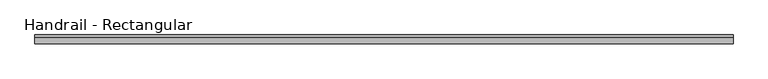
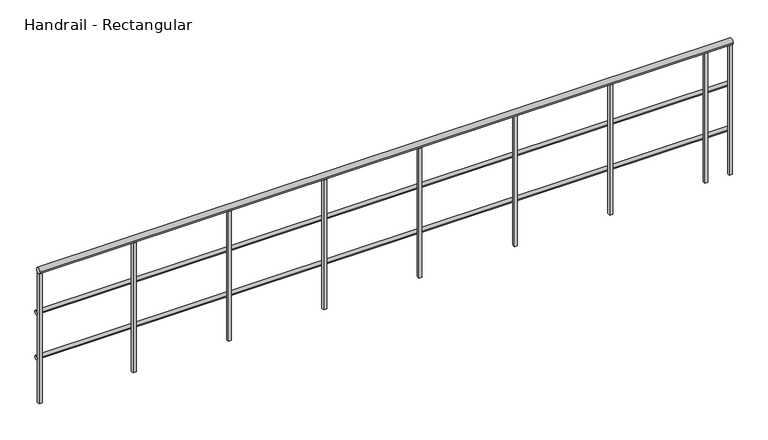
"""IFC4 building model written with IfcOpenShell, lengths in millimetres: railing geometry, Handrail - Rectangular."""

from ifc_helpers import new_model, si_unit, point, frame, frame_2d, origin, place, context, project, spatial, polyline, circle_curve, trimmed, segment, composite_curve, outline, extrude, source, transform, mapped, element, save


def handrail_rectangular_8bc6fbf6(model_context):
    return source(origin(), model_context, "Body", "SweptSolid", [
        extrude(outline(composite_curve([segment(trimmed(circle_curve(frame_2d((11970.2316867, 9740.9)), 12.7), [point((11982.9316867, 9740.9))], [point((11957.5316867, 9740.9))], False, "CARTESIAN"), True, "CONTINUOUS"), segment(trimmed(circle_curve(frame_2d((11970.2316867, 9740.9)), 12.7), [point((11957.5316867, 9740.9))], [point((11982.9316867, 9740.9))], False, "CARTESIAN"), True, "CONTINUOUS")], self_intersect=False)), frame((-3862.3589563, 0.0, 0.0), z_axis=(1.0, 0.0, 0.0), x_axis=(0.0, 1.0, 0.0)), (0.0, 0.0, 1.0), 4432.3),
        extrude(outline(composite_curve([segment(trimmed(circle_curve(frame_2d((11970.2316867, 9436.1)), 12.7), [point((11982.9316867, 9436.1))], [point((11957.5316867, 9436.1))], False, "CARTESIAN"), True, "CONTINUOUS"), segment(trimmed(circle_curve(frame_2d((11970.2316867, 9436.1)), 12.7), [point((11957.5316867, 9436.1))], [point((11982.9316867, 9436.1))], False, "CARTESIAN"), True, "CONTINUOUS")], self_intersect=False)), frame((-3862.3589563, 0.0, 0.0), z_axis=(1.0, 0.0, 0.0), x_axis=(0.0, 1.0, 0.0)), (0.0, 0.0, 1.0), 4432.3),
        extrude(outline(composite_curve([segment(trimmed(circle_curve(frame_2d((11944.8316867, 10039.35)), 19.05), [point((11963.8816867, 10039.35))], [point((11925.7816867, 10039.35))], False, "CARTESIAN"), True, "CONTINUOUS"), segment(trimmed(circle_curve(frame_2d((11944.8316867, 10039.35)), 19.05), [point((11925.7816867, 10039.35))], [point((11963.8816867, 10039.35))], False, "CARTESIAN"), True, "CONTINUOUS")], self_intersect=False)), frame((-3862.3589563, 0.0, 0.0), z_axis=(1.0, 0.0, 0.0), x_axis=(0.0, 1.0, 0.0)), (0.0, 0.0, 1.0), 4432.3),
        extrude(outline(polyline([(395.3160437, 11935.3066867), (395.3160437, 11954.3566867), (414.3660437, 11954.3566867), (414.3660437, 11935.3066867), (395.3160437, 11935.3066867)])), frame((0.0, 0.0, 9144.0), z_axis=(0.0, 0.0, 1.0), x_axis=(1.0, 0.0, 0.0)), (0.0, 0.0, 1.0), 876.3),
        extrude(outline(polyline([(-214.2839563, 11935.3066867), (-214.2839563, 11954.3566867), (-195.2339563, 11954.3566867), (-195.2339563, 11935.3066867), (-214.2839563, 11935.3066867)])), frame((0.0, 0.0, 9144.0), z_axis=(0.0, 0.0, 1.0), x_axis=(1.0, 0.0, 0.0)), (0.0, 0.0, 1.0), 876.3),
        extrude(outline(polyline([(-823.8839563, 11935.3066867), (-823.8839563, 11954.3566867), (-804.8339563, 11954.3566867), (-804.8339563, 11935.3066867), (-823.8839563, 11935.3066867)])), frame((0.0, 0.0, 9144.0), z_axis=(0.0, 0.0, 1.0), x_axis=(1.0, 0.0, 0.0)), (0.0, 0.0, 1.0), 876.3),
        extrude(outline(polyline([(-1433.4839563, 11935.3066867), (-1433.4839563, 11954.3566867), (-1414.4339563, 11954.3566867), (-1414.4339563, 11935.3066867), (-1433.4839563, 11935.3066867)])), frame((0.0, 0.0, 9144.0), z_axis=(0.0, 0.0, 1.0), x_axis=(1.0, 0.0, 0.0)), (0.0, 0.0, 1.0), 876.3),
        extrude(outline(polyline([(-2043.0839563, 11935.3066867), (-2043.0839563, 11954.3566867), (-2024.0339563, 11954.3566867), (-2024.0339563, 11935.3066867), (-2043.0839563, 11935.3066867)])), frame((0.0, 0.0, 9144.0), z_axis=(0.0, 0.0, 1.0), x_axis=(1.0, 0.0, 0.0)), (0.0, 0.0, 1.0), 876.3),
        extrude(outline(polyline([(-2652.6839563, 11935.3066867), (-2652.6839563, 11954.3566867), (-2633.6339563, 11954.3566867), (-2633.6339563, 11935.3066867), (-2652.6839563, 11935.3066867)])), frame((0.0, 0.0, 9144.0), z_axis=(0.0, 0.0, 1.0), x_axis=(1.0, 0.0, 0.0)), (0.0, 0.0, 1.0), 876.3),
        extrude(outline(polyline([(-3262.2839563, 11935.3066867), (-3262.2839563, 11954.3566867), (-3243.2339563, 11954.3566867), (-3243.2339563, 11935.3066867), (-3262.2839563, 11935.3066867)])), frame((0.0, 0.0, 9144.0), z_axis=(0.0, 0.0, 1.0), x_axis=(1.0, 0.0, 0.0)), (0.0, 0.0, 1.0), 876.3),
        extrude(outline(polyline([(550.8910437, 11935.3066867), (550.8910437, 11954.3566867), (569.9410437, 11954.3566867), (569.9410437, 11935.3066867), (550.8910437, 11935.3066867)])), frame((0.0, 0.0, 9144.0), z_axis=(0.0, 0.0, 1.0), x_axis=(1.0, 0.0, 0.0)), (0.0, 0.0, 1.0), 876.3),
        extrude(outline(polyline([(-3862.3589563, 11935.3066867), (-3862.3589563, 11954.3566867), (-3843.3089563, 11954.3566867), (-3843.3089563, 11935.3066867), (-3862.3589563, 11935.3066867)])), frame((0.0, 0.0, 9144.0), z_axis=(0.0, 0.0, 1.0), x_axis=(1.0, 0.0, 0.0)), (0.0, 0.0, 1.0), 876.3),
    ])


if __name__ == "__main__":
    model = new_model("IFC4")
    model_context = context("Model", 3, world=origin())
    ifc_project = project(units=[si_unit("LENGTHUNIT", "METRE", prefix="MILLI")], contexts=[model_context])
    site = spatial("IfcSite", under=ifc_project)
    building = spatial("IfcBuilding", under=site)
    placement = place(None, origin())
    handrail_rectangular_shape = handrail_rectangular_8bc6fbf6(model_context)
    element("IfcRailing", 1, ObjectType="Handrail - Rectangular", at=placement, inside=building, context=model_context, shape_type="MappedRepresentation", body=[
        mapped(handrail_rectangular_shape, transform((0.0, 0.0, 0.0), x_axis=(1.0, 0.0, 0.0), y_axis=(0.0, 1.0, 0.0), z_axis=(0.0, 0.0, 1.0))),
    ])
    save(model, "model.ifc")
